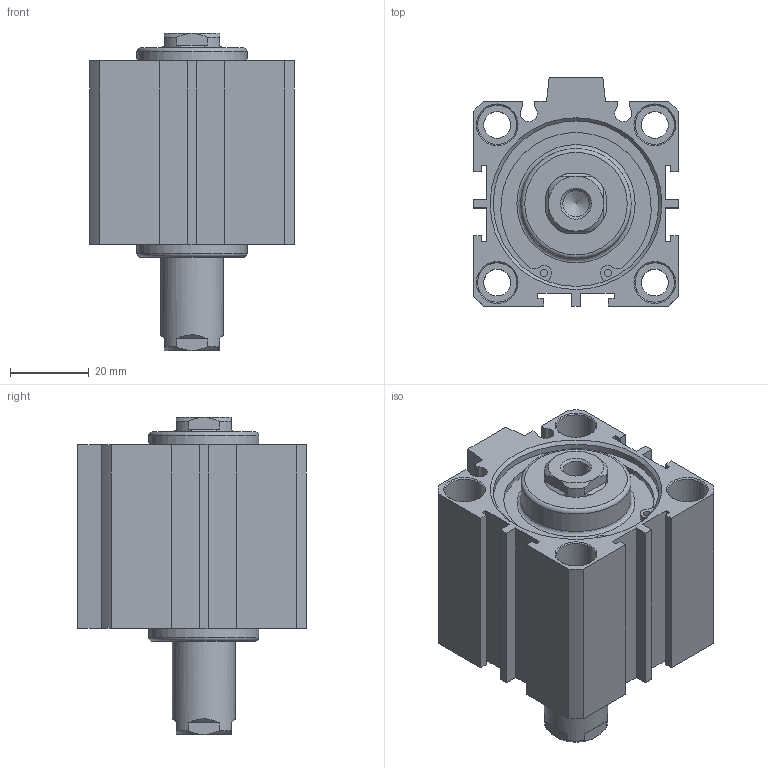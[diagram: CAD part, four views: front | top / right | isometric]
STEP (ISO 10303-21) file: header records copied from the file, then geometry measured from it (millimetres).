
FILE_DESCRIPTION((''),'2;1');
FILE_NAME('I:\3D電子目錄\氣缸\JDD\JDD\JDD40\JDD40x20.stp','2007-02-08T10:51:01',('662F206'),(''),'Autodesk Inventor 10','Autodesk Inventor 10','');
FILE_SCHEMA(('AUTOMOTIVE_DESIGN { 1 0 10303 214 1 1 1 1 }'));
Length unit declared in the file: millimetre
Products named in the file (3): JDD40; R 形環 42
Assembly tree (3 placements, depth 2):
  JDD40
    JDD40
    R 形環 42  x2
Bounding box: 52 x 58 x 80.5 mm (x, y, z)
Volume: 112278.2 mm3; surface area: 30669.4 mm2
Topology: 3 solids, 3 shells, 179 faces, 431 edges, 280 vertices
Faces by surface type: plane 98, cylinder 49, cone 24, bspline 6, torus 2
Full cylindrical faces by diameter (mm): 1.9 x4, 2.2 x2, 6.8 x4, 10 x8, 16 x1, 28 x2, 42 x4, 44.5 x2
Entity records: 4755 total; most frequent: CARTESIAN_POINT 955, DIRECTION 792, ORIENTED_EDGE 686, EDGE_CURVE 343, AXIS2_PLACEMENT_3D 298, VERTEX_POINT 251, EDGE_LOOP 250, VECTOR 196
